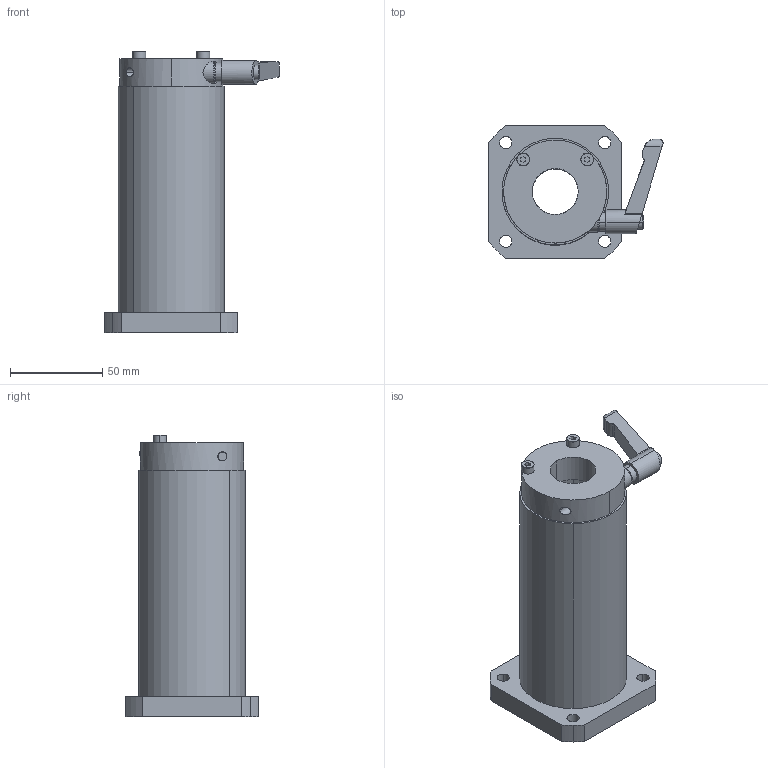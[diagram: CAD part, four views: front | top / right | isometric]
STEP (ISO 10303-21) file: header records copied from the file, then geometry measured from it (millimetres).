
FILE_DESCRIPTION (( 'STEP AP214' ), '1' );
FILE_NAME ('LFWK25-CS.STEP', '2023-06-27T01:59:59', ( '' ), ( '' ), 'SwSTEP 2.0', 'SolidWorks 2019', '' );
FILE_SCHEMA (( 'AUTOMOTIVE_DESIGN' ));
Length unit declared in the file: millimetre
Products named in the file (3): “ÁSCK2515SS-S4.5; LFWK25; LFWK25-CS
Assembly tree (2 placements, depth 2):
  LFWK25-CS
    LFWK25
    “ÁSCK2515SS-S4.5
Bounding box: 94.6 x 72 x 153 mm (x, y, z)
Volume: 335446 mm3; surface area: 64988.5 mm2
Topology: 3 solids, 8 shells, 198 faces, 509 edges, 320 vertices
Faces by surface type: cylinder 79, plane 61, bspline 39, cone 11, torus 8
Entity records: 8831 total; most frequent: CARTESIAN_POINT 1919, DIRECTION 1074, ORIENTED_EDGE 1018, EDGE_CURVE 509, AXIS2_PLACEMENT_3D 445, VERTEX_POINT 320, CIRCLE 281, EDGE_LOOP 237
